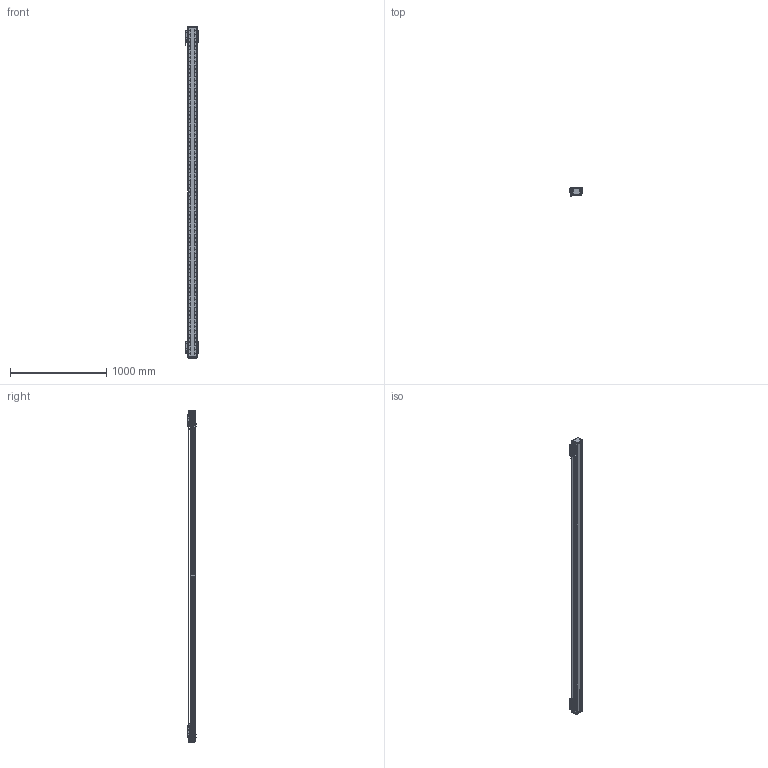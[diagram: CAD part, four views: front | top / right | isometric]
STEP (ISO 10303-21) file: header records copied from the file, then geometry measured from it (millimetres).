
FILE_DESCRIPTION (( 'STEP AP203' ), '1' );
FILE_NAME ('DA-B95-2-B15-T3080-C010-0.2 直线电机.STEP', '2023-05-06T06:45:42', ( '微软用户' ), ( '微软中国' ), 'SwSTEP 2.0', 'SolidWorks 2019', '' );
FILE_SCHEMA (( 'CONFIG_CONTROL_DESIGN' ));
Length unit declared in the file: millimetre
Products named in the file (34): DA95-HXJ-00 缓冲橡胶^DA-A95-B15-T-C010-0.2-N 直线电机; 复件 DKW-KGZ-ZJ-00 中间光电开关支架^DA-A95-B15-T-C010-0.2-N 直线电机; 复件 DA95-B15-YB-A-00 压板A^66245-BU95-V 滚珠滑台; 复件 DKW-GYP-ZJ-00 中间光电感应片^DA-A95-B15-T-C010-0.2-N 直线电机; 复件 DA95-DK-00 挡块^66245-BU95-V 滚珠滑台; 葩璃 DA95-GT-T-00^IU-BU95-L 菁釱絳寢_DA95; PM-T45 光电开关^DA-A95-B15-T-C010-0.2-N 直线电机; 66245-BU95-V 幗紩賑怢; 葩璃 DA95-B15-DP--B-00 菜えB^66245-BU95-V 幗紩賑怢; 复件 DKW-HXJ-JY-00 缓冲橡胶^DA-A95-B15-T-C010-0.2-N 直线电机; 66245-BU95-V-00 珨极趙賑雄怢啣; IU-BU95-L-00 菁釱_L3420; 复件 66245-BU95-HT-V-01 滑动台板^66245-BU95-V-00 一体化滑动台板; 葩璃 BKMA01-W060-TRL^DA-A95-B15-T-C010-0.2-N 眻盄萇儂; 葩璃 BKM015-W060-C1-TP-DA-0.2^DA-A95-B15-T-C010-0.2-N 眻盄萇儂; B15 XD-U-02L ｴﾅﾕ､ｳﾟ^DA-A95-B15-T-C010-0.2-N ﾖｱﾏﾟｵ扈銈XD-U-02L; 复件 DA95-HK-GT-00 滑块钢轨^66245-BU95-V-00 一体化滑动台板; 复件 纯铜油杯 6x6mm^66245-BU95-V 滚珠滑台; DA-B95-2-B15-T3080-C010-0.2 眻盄萇儂; 复件 复件 18252-0001-003-00 钢带拉块^DA-A95-B15-T-C010-0.2-N 直线电机; 复件 DA95-B15-YB-B-00 压板B^66245-BU95-V 滚珠滑台; 复件 复件 18252-0001-004-00 钢带端盖^DA-A95-B15-T-C010-0.2-N 直线电机; 复件 DA95-DB-00  挡板^66245-BU95-V 滚珠滑台; DA-A95-GYP-00 光电感应片^DA-A95-B15-T-C010-0.2-N 直线电机; 复件 复件 18252-0001-002-00 钢带垫块^DA-A95-B15-T-C010-0.2-N 直线电机; IU-BU95-L 菁釱絳寢; LMDK-2-R001-V5-L02-C1-F00，0.2M 读数头^DA-A95-B15-T-C010-0.2-N 直线电机_DMA-010-0.2; 葩璃 DA95-B15-DP-A-00 菜えA^66245-BU95-V 幗紩賑怢; 复件 DA95-B15 钢带盖板^DA-A95-B15-T-C010-0.2-N 直线电机; 复件 六角薄螺母 M3^DA-A95-B15-T-C010-0.2-N 直线电机_GB_FASTENER_NUT_STNAB M3-C; 复件 DA95-MFP-01 密封片^66245-BU95-V 滚珠滑台; 葩璃 PM-Y45^DA-A95-B15-T-C010-0.2-N 眻盄萇儂
Assembly tree (80 placements, depth 4):
  DA-B95-2-B15-T3080-C010-0.2 眻盄萇儂
    IU-BU95-L 菁釱絳寢
      IU-BU95-L-00 菁釱_L3420
      葩璃 DA95-GT-T-00^IU-BU95-L 菁釱絳寢_DA95  x2
    66245-BU95-V 幗紩賑怢
      66245-BU95-V-00 珨极趙賑雄怢啣
        复件 66245-BU95-HT-V-01 滑动台板^66245-BU95-V-00 一体化滑动台板
        复件 DA95-HK-GT-00 滑块钢轨^66245-BU95-V-00 一体化滑动台板  x2
      葩璃 DA95-B15-DP-A-00 菜えA^66245-BU95-V 幗紩賑怢
      复件 DA95-B15-YB-A-00 压板A^66245-BU95-V 滚珠滑台
      复件 DA95-B15-YB-B-00 压板B^66245-BU95-V 滚珠滑台
      复件 DA95-DB-00  挡板^66245-BU95-V 滚珠滑台  x4
      复件 DA95-DK-00 挡块^66245-BU95-V 滚珠滑台  x2
      复件 DA95-MFP-01 密封片^66245-BU95-V 滚珠滑台  x4
      复件 纯铜油杯 6x6mm^66245-BU95-V 滚珠滑台  x2
      葩璃 DA95-B15-DP--B-00 菜えB^66245-BU95-V 幗紩賑怢
    66245-BU95-V 幗紩賑怢
      66245-BU95-V-00 珨极趙賑雄怢啣
        复件 66245-BU95-HT-V-01 滑动台板^66245-BU95-V-00 一体化滑动台板
        复件 DA95-HK-GT-00 滑块钢轨^66245-BU95-V-00 一体化滑动台板  x2
      葩璃 DA95-B15-DP-A-00 菜えA^66245-BU95-V 幗紩賑怢
      复件 DA95-B15-YB-A-00 压板A^66245-BU95-V 滚珠滑台
      复件 DA95-B15-YB-B-00 压板B^66245-BU95-V 滚珠滑台
      复件 DA95-DB-00  挡板^66245-BU95-V 滚珠滑台  x4
      复件 DA95-DK-00 挡块^66245-BU95-V 滚珠滑台  x2
      复件 DA95-MFP-01 密封片^66245-BU95-V 滚珠滑台  x4
      复件 纯铜油杯 6x6mm^66245-BU95-V 滚珠滑台  x2
      葩璃 DA95-B15-DP--B-00 菜えB^66245-BU95-V 幗紩賑怢
    DA-A95-GYP-00 光电感应片^DA-A95-B15-T-C010-0.2-N 直线电机  x2
    LMDK-2-R001-V5-L02-C1-F00，0.2M 读数头^DA-A95-B15-T-C010-0.2-N 直线电机_DMA-010-0.2  x2
    复件 DKW-KGZ-ZJ-00 中间光电开关支架^DA-A95-B15-T-C010-0.2-N 直线电机
    葩璃 PM-Y45^DA-A95-B15-T-C010-0.2-N 眻盄萇儂
    复件 DKW-GYP-ZJ-00 中间光电感应片^DA-A95-B15-T-C010-0.2-N 直线电机
    葩璃 BKM015-W060-C1-TP-DA-0.2^DA-A95-B15-T-C010-0.2-N 眻盄萇儂  x2
    复件 DKW-HXJ-JY-00 缓冲橡胶^DA-A95-B15-T-C010-0.2-N 直线电机  x2
    PM-T45 光电开关^DA-A95-B15-T-C010-0.2-N 直线电机  x4
    B15 XD-U-02L ｴﾅﾕ､ｳﾟ^DA-A95-B15-T-C010-0.2-N ﾖｱﾏﾟｵ扈銈XD-U-02L
    复件 复件 18252-0001-003-00 钢带拉块^DA-A95-B15-T-C010-0.2-N 直线电机  x2
    复件 复件 18252-0001-002-00 钢带垫块^DA-A95-B15-T-C010-0.2-N 直线电机  x2
    复件 复件 18252-0001-004-00 钢带端盖^DA-A95-B15-T-C010-0.2-N 直线电机  x2
    复件 DA95-B15 钢带盖板^DA-A95-B15-T-C010-0.2-N 直线电机
    DA95-HXJ-00 缓冲橡胶^DA-A95-B15-T-C010-0.2-N 直线电机  x4
    葩璃 BKMA01-W060-TRL^DA-A95-B15-T-C010-0.2-N 眻盄萇儂
    复件 六角薄螺母 M3^DA-A95-B15-T-C010-0.2-N 直线电机_GB_FASTENER_NUT_STNAB M3-C  x6
Bounding box: 145.4 x 90.2 x 3456 mm (x, y, z)
Volume: 10769318.3 mm3; surface area: 3605517.4 mm2
Topology: 75 solids, 93 shells, 4600 faces, 13300 edges, 8479 vertices
Faces by surface type: cylinder 2461, plane 1607, cone 464, torus 64, sphere 4
Entity records: 121028 total; most frequent: CARTESIAN_POINT 33414, ORIENTED_EDGE 17958, DIRECTION 16992, EDGE_CURVE 8979, AXIS2_PLACEMENT_3D 6505, VERTEX_POINT 5881, VECTOR 3982, LINE 3982
